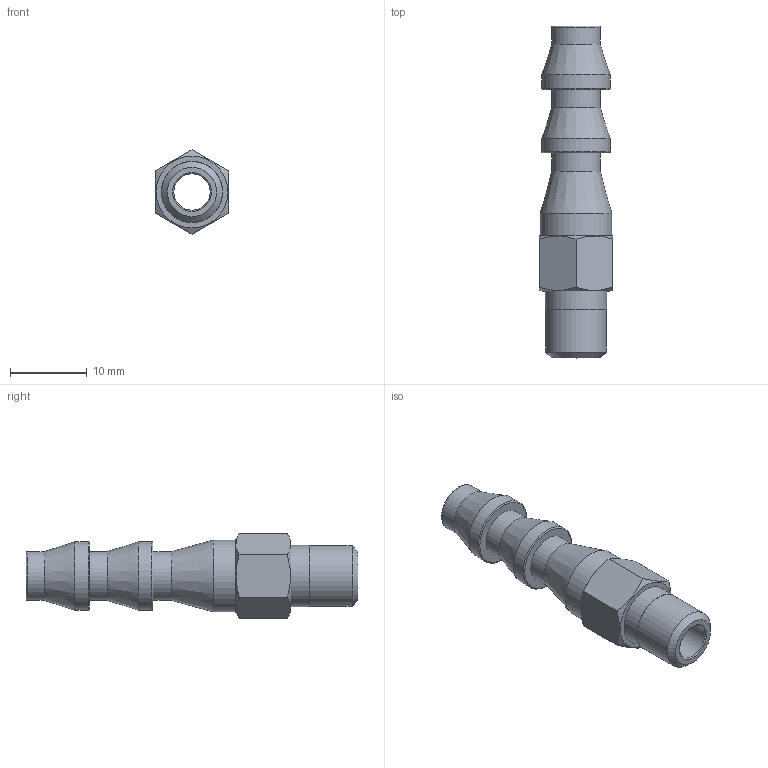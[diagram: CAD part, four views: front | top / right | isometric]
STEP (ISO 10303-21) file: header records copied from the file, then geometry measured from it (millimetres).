
FILE_DESCRIPTION(/* description */ (''),/* implementation_level */ '2;1');
FILE_NAME(/* name */ 'C:/Users/drich/Desktop/PLM-04-01 v1.step',/* time_stamp */ '2020-02-02T14:41:59-06:00',/* author */ (''),/* organization */ (''),/* preprocessor_version */ 'ST-DEVELOPER v18',/* originating_system */ 'Autodesk Translation Framework v8.12.0.6',/* authorisation */ '');
FILE_SCHEMA (('AUTOMOTIVE_DESIGN { 1 0 10303 214 3 1 1 }'));
Length unit declared in the file: inch
Products named in the file (1): PLM-04-01
Bounding box: 9.53 x 43.18 x 11 mm (x, y, z)
Volume: 1526.3 mm3; surface area: 1887.6 mm2
Topology: 1 solids, 1 shells, 33 faces, 87 edges, 61 vertices
Faces by surface type: plane 13, cylinder 9, cone 6, torus 5
Full cylindrical faces by diameter (mm): 4.724 x1, 6.35 x3, 7.925 x1, 7.976 x1, 8.89 x2, 9.354 x1
Entity records: 1101 total; most frequent: CARTESIAN_POINT 206, DIRECTION 197, ORIENTED_EDGE 174, AXIS2_PLACEMENT_3D 88, EDGE_CURVE 87, VERTEX_POINT 61, CIRCLE 54, EDGE_LOOP 40
